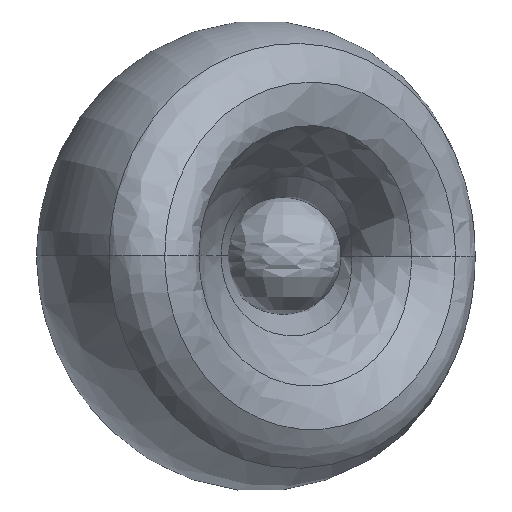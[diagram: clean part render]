
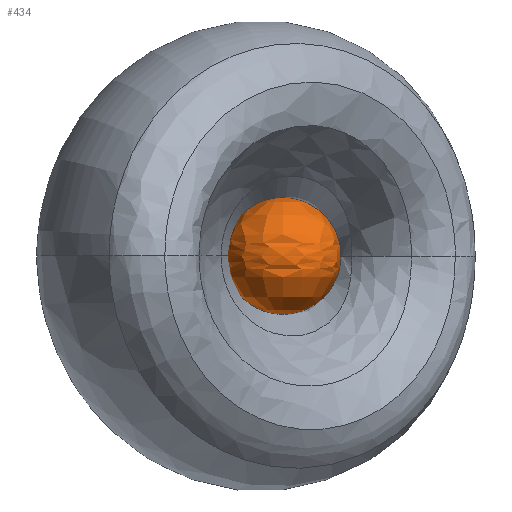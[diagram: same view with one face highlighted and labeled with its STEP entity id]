
A CAD part, top view. The second image highlights one B-rep face of the part: STEP entity #434.
In plain terms, the highlighted free-form (B-spline) face has degree [2, 2] with [5, 5] control points.
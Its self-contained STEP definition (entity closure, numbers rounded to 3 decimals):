
#434=ADVANCED_FACE('',(#692),#5006,.T.);
#692=FACE_OUTER_BOUND('',#951,.T.);
#951=EDGE_LOOP('',(#1259,#1260));
#1259=ORIENTED_EDGE('',*,*,#2795,.T.);
#1260=ORIENTED_EDGE('',*,*,#2814,.F.);
#2795=EDGE_CURVE('',#4362,#4363,#4053,.T.);
#2814=EDGE_CURVE('',#4362,#4363,#4070,.T.);
#4053=(
BOUNDED_CURVE()
B_SPLINE_CURVE(2,(#5894,#5895,#5896,#5897,#5898),.UNSPECIFIED.,.F.,.F.)
B_SPLINE_CURVE_WITH_KNOTS((3,2,3),(0.,51.365,102.73),
 .UNSPECIFIED.)
CURVE()
GEOMETRIC_REPRESENTATION_ITEM()
RATIONAL_B_SPLINE_CURVE((1.,0.707,1.,0.707,1.))
REPRESENTATION_ITEM('')
);
#4070=(
BOUNDED_CURVE()
B_SPLINE_CURVE(2,(#5967,#5968,#5969,#5970,#5971),.UNSPECIFIED.,.F.,.F.)
B_SPLINE_CURVE_WITH_KNOTS((3,2,3),(0.,51.365,102.73),
 .UNSPECIFIED.)
CURVE()
GEOMETRIC_REPRESENTATION_ITEM()
RATIONAL_B_SPLINE_CURVE((1.,0.707,1.,0.707,1.))
REPRESENTATION_ITEM('')
);
#4362=VERTEX_POINT('',#5878);
#4363=VERTEX_POINT('',#5879);
#5006=(
BOUNDED_SURFACE()
B_SPLINE_SURFACE(2,2,((#5736,#5737,#5738,#5739,#5740),(#5741,#5742,#5743,
#5744,#5745),(#5746,#5747,#5748,#5749,#5750),(#5751,#5752,#5753,#5754,#5755),
(#5756,#5757,#5758,#5759,#5760)),.UNSPECIFIED.,.F.,.F.,.F.)
B_SPLINE_SURFACE_WITH_KNOTS((3,2,3),(3,2,3),(102.73,154.095,
205.46),(0.,51.365,102.73),.UNSPECIFIED.)
GEOMETRIC_REPRESENTATION_ITEM()
RATIONAL_B_SPLINE_SURFACE(((1.,0.707,1.,0.707,1.),
(0.707,0.5,0.707,0.5,0.707),(1.,0.707,
1.,0.707,1.),(0.707,0.5,0.707,0.5,0.707),
(1.,0.707,1.,0.707,1.)))
REPRESENTATION_ITEM('')
SURFACE()
);
#5736=CARTESIAN_POINT('',(10.,32.7,165.6));
#5737=CARTESIAN_POINT('',(42.7,32.7,165.6));
#5738=CARTESIAN_POINT('',(42.7,0.,165.6));
#5739=CARTESIAN_POINT('',(42.7,-32.7,165.6));
#5740=CARTESIAN_POINT('',(10.,-32.7,165.6));
#5741=CARTESIAN_POINT('',(10.,32.7,165.6));
#5742=CARTESIAN_POINT('',(42.7,32.7,198.3));
#5743=CARTESIAN_POINT('',(42.7,0.,198.3));
#5744=CARTESIAN_POINT('',(42.7,-32.7,198.3));
#5745=CARTESIAN_POINT('',(10.,-32.7,165.6));
#5746=CARTESIAN_POINT('',(10.,32.7,165.6));
#5747=CARTESIAN_POINT('',(10.,32.7,198.3));
#5748=CARTESIAN_POINT('',(10.,0.,198.3));
#5749=CARTESIAN_POINT('',(10.,-32.7,198.3));
#5750=CARTESIAN_POINT('',(10.,-32.7,165.6));
#5751=CARTESIAN_POINT('',(10.,32.7,165.6));
#5752=CARTESIAN_POINT('',(-22.7,32.7,198.3));
#5753=CARTESIAN_POINT('',(-22.7,0.,198.3));
#5754=CARTESIAN_POINT('',(-22.7,-32.7,198.3));
#5755=CARTESIAN_POINT('',(10.,-32.7,165.6));
#5756=CARTESIAN_POINT('',(10.,32.7,165.6));
#5757=CARTESIAN_POINT('',(-22.7,32.7,165.6));
#5758=CARTESIAN_POINT('',(-22.7,0.,165.6));
#5759=CARTESIAN_POINT('',(-22.7,-32.7,165.6));
#5760=CARTESIAN_POINT('',(10.,-32.7,165.6));
#5878=CARTESIAN_POINT('',(10.,32.7,165.6));
#5879=CARTESIAN_POINT('',(10.,-32.7,165.6));
#5894=CARTESIAN_POINT('',(10.,32.7,165.6));
#5895=CARTESIAN_POINT('',(-22.7,32.7,165.6));
#5896=CARTESIAN_POINT('',(-22.7,0.,165.6));
#5897=CARTESIAN_POINT('',(-22.7,-32.7,165.6));
#5898=CARTESIAN_POINT('',(10.,-32.7,165.6));
#5967=CARTESIAN_POINT('',(10.,32.7,165.6));
#5968=CARTESIAN_POINT('',(42.7,32.7,165.6));
#5969=CARTESIAN_POINT('',(42.7,0.,165.6));
#5970=CARTESIAN_POINT('',(42.7,-32.7,165.6));
#5971=CARTESIAN_POINT('',(10.,-32.7,165.6));
